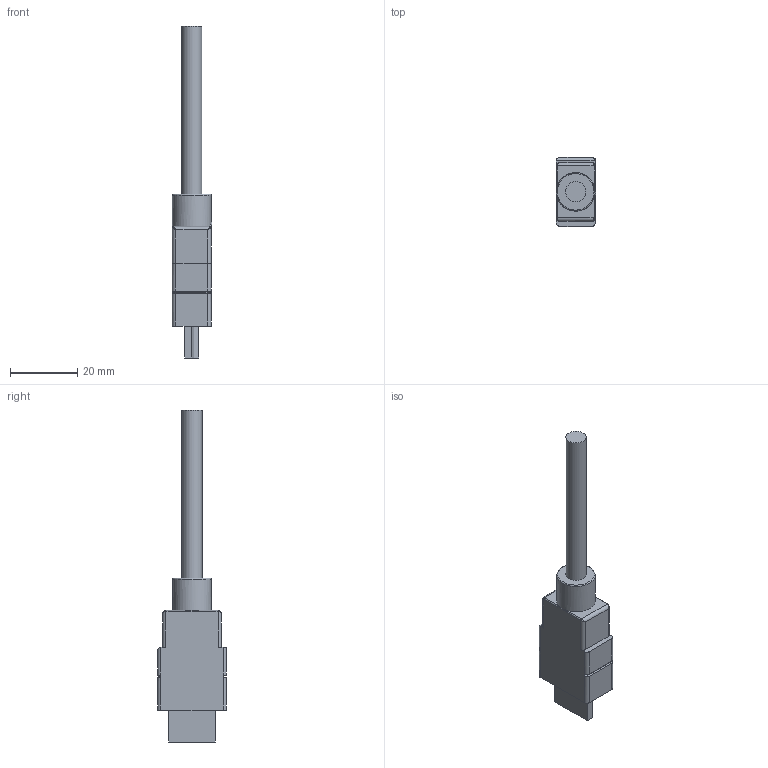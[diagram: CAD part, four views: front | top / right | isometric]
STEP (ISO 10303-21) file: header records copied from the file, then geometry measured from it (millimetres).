
FILE_DESCRIPTION(('FreeCAD Model'),'2;1');
FILE_NAME('Open CASCADE Shape Model','2026-06-02T14:30:07',(''),(''), 'Open CASCADE STEP processor 7.8','FreeCAD','Unknown');
FILE_SCHEMA(('AUTOMOTIVE_DESIGN { 1 0 10303 214 1 1 1 1 }'));
Length unit declared in the file: millimetre
Products named in the file (1): HDMI-AMPAF-XXXX_M
Bounding box: 11.83 x 20.5 x 98.7 mm (x, y, z)
Volume: 9399 mm3; surface area: 4062.9 mm2
Topology: 1 solids, 1 shells, 70 faces, 177 edges, 109 vertices
Faces by surface type: plane 38, cylinder 25, bspline 6, torus 1
Full cylindrical faces by diameter (mm): 6 x1, 11.5 x1
Entity records: 2436 total; most frequent: CARTESIAN_POINT 855, ORIENTED_EDGE 342, DIRECTION 298, EDGE_CURVE 171, LINE 116, VECTOR 116, VERTEX_POINT 110, AXIS2_PLACEMENT_3D 91
